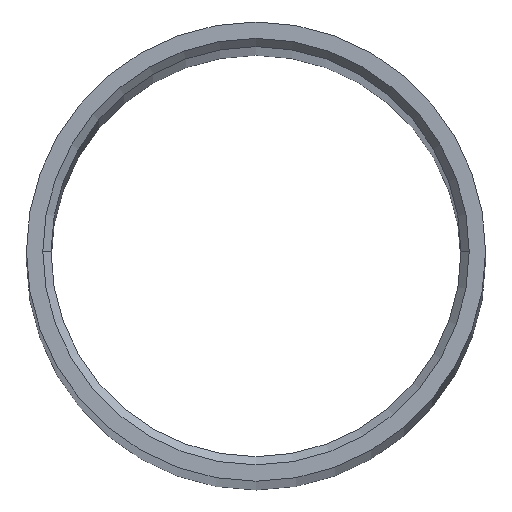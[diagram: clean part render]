
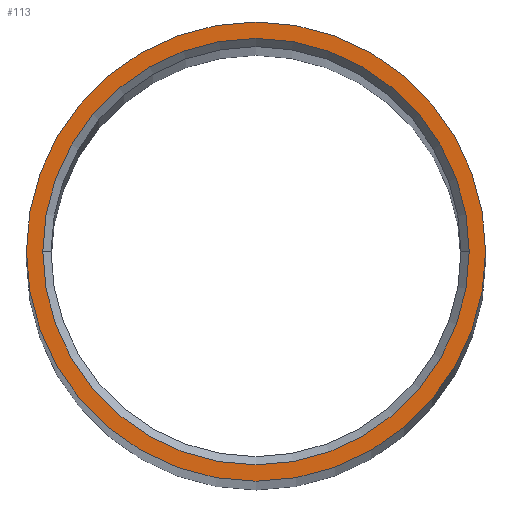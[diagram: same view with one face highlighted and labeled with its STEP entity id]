
A CAD part, top view. The second image highlights one B-rep face of the part: STEP entity #113.
In plain terms, the highlighted planar face has unit normal (0, 0, 1).
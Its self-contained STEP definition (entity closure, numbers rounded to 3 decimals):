
#68 = VERTEX_POINT('',#69);
#69 = CARTESIAN_POINT('',(-14.,0.,306.499));
#75 = EDGE_CURVE('',#76,#68,#78,.T.);
#76 = VERTEX_POINT('',#77);
#77 = CARTESIAN_POINT('',(14.,0.,306.499));
#78 = CIRCLE('',#79,14.);
#79 = AXIS2_PLACEMENT_3D('',#80,#81,#82);
#80 = CARTESIAN_POINT('',(0.,0.,306.499));
#81 = DIRECTION('',(0.,0.,1.));
#82 = DIRECTION('',(1.,0.,0.));
#100 = EDGE_CURVE('',#68,#76,#101,.T.);
#101 = CIRCLE('',#102,14.);
#102 = AXIS2_PLACEMENT_3D('',#103,#104,#105);
#103 = CARTESIAN_POINT('',(0.,0.,306.499));
#104 = DIRECTION('',(0.,0.,1.));
#105 = DIRECTION('',(-1.,0.,0.));
#113 = ADVANCED_FACE('',(#114,#118),#138,.T.);
#114 = FACE_BOUND('',#115,.F.);
#115 = EDGE_LOOP('',(#116,#117));
#116 = ORIENTED_EDGE('',*,*,#75,.F.);
#117 = ORIENTED_EDGE('',*,*,#100,.F.);
#118 = FACE_BOUND('',#119,.F.);
#119 = EDGE_LOOP('',(#120,#131));
#120 = ORIENTED_EDGE('',*,*,#121,.F.);
#121 = EDGE_CURVE('',#122,#124,#126,.T.);
#122 = VERTEX_POINT('',#123);
#123 = CARTESIAN_POINT('',(-13.,0.,306.499));
#124 = VERTEX_POINT('',#125);
#125 = CARTESIAN_POINT('',(13.,0.,306.499));
#126 = CIRCLE('',#127,13.);
#127 = AXIS2_PLACEMENT_3D('',#128,#129,#130);
#128 = CARTESIAN_POINT('',(0.,0.,306.499));
#129 = DIRECTION('',(0.,0.,-1.));
#130 = DIRECTION('',(-1.,0.,0.));
#131 = ORIENTED_EDGE('',*,*,#132,.F.);
#132 = EDGE_CURVE('',#124,#122,#133,.T.);
#133 = CIRCLE('',#134,13.);
#134 = AXIS2_PLACEMENT_3D('',#135,#136,#137);
#135 = CARTESIAN_POINT('',(0.,0.,306.499));
#136 = DIRECTION('',(0.,0.,-1.));
#137 = DIRECTION('',(1.,0.,0.));
#138 = PLANE('',#139);
#139 = AXIS2_PLACEMENT_3D('',#140,#141,#142);
#140 = CARTESIAN_POINT('',(0.,0.,306.499));
#141 = DIRECTION('',(0.,0.,1.));
#142 = DIRECTION('',(1.,0.,0.));
